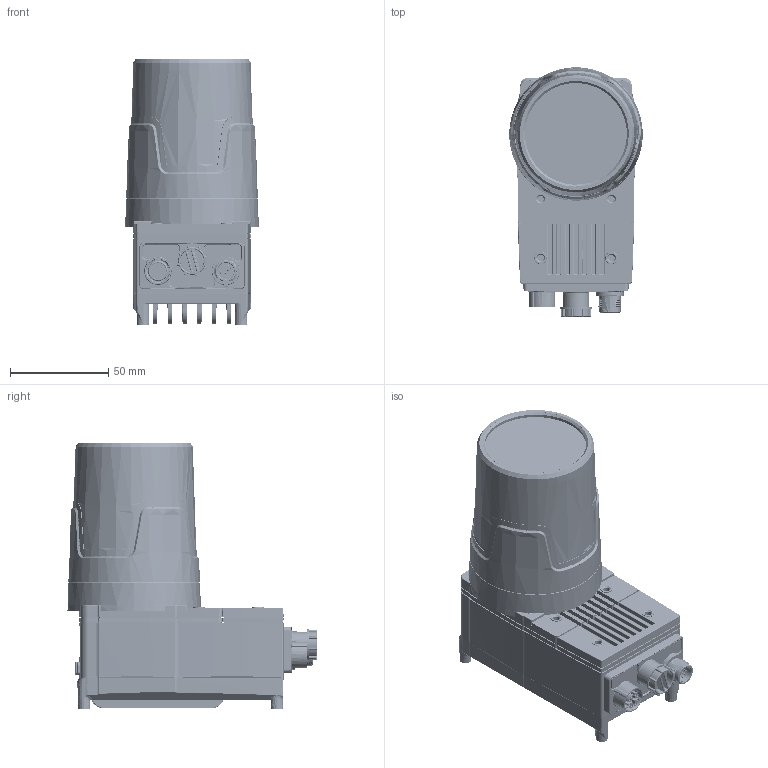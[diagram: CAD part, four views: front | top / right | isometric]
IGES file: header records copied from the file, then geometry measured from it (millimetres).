
Start section: SolidWorks IGES file using analytic representation for surfaces
Global section: file name: M:\IS016\IS016-16\IS016-16_11-20-18.IGS; native system: SolidWorks 2018; preprocessor: SolidWorks 2018; author: rgainer; date: 181121.113230; units: millimetre
Bounding box: 68.03 x 126.87 x 135.7 mm (x, y, z)
Surface area: 120044.5 mm2 (no closed solid volume)
Topology: 0 solids, 0 shells, 6444 faces, 62359 edges, 62232 vertices
Faces by surface type: bspline 3906, revolution 2538
